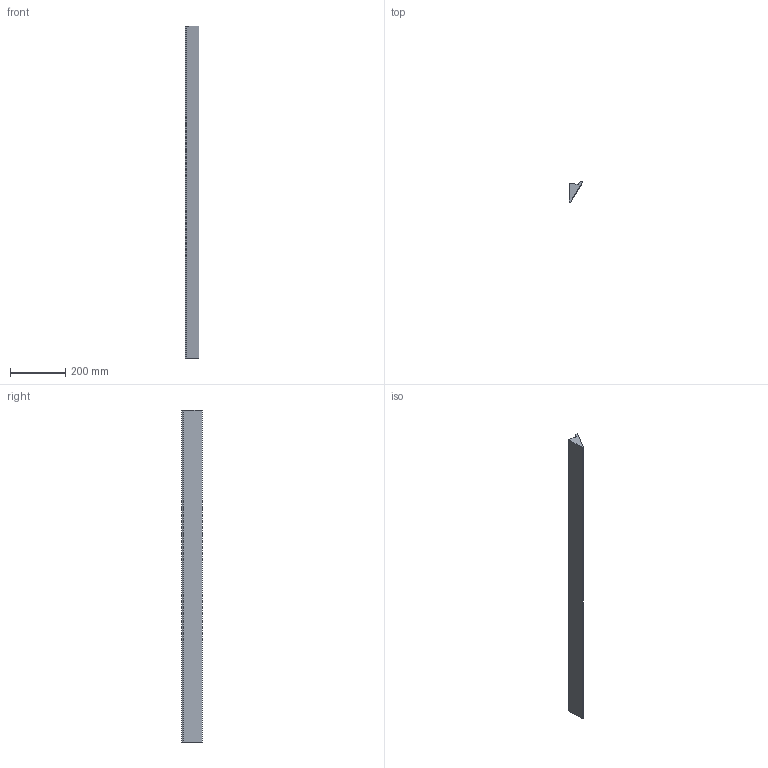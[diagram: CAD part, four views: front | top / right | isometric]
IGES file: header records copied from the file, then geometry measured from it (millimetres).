
Start section: SolidWorks IGES file using analytic representation for surfaces
Global section: file name: C:\Users\Stagiaire\Desktop\Rendu 3D\Micro CORNICHE\187 CALE\187_CALE.IGS; native system: SolidWorks 2014; preprocessor: SolidWorks 2014; author: Stagiaire; date: 140915.115245; units: millimetre
Bounding box: 50 x 75 x 1200 mm (x, y, z)
Surface area: 265340.2 mm2 (no closed solid volume)
Topology: 0 solids, 0 shells, 9 faces, 42 edges, 42 vertices
Faces by surface type: bspline 9
